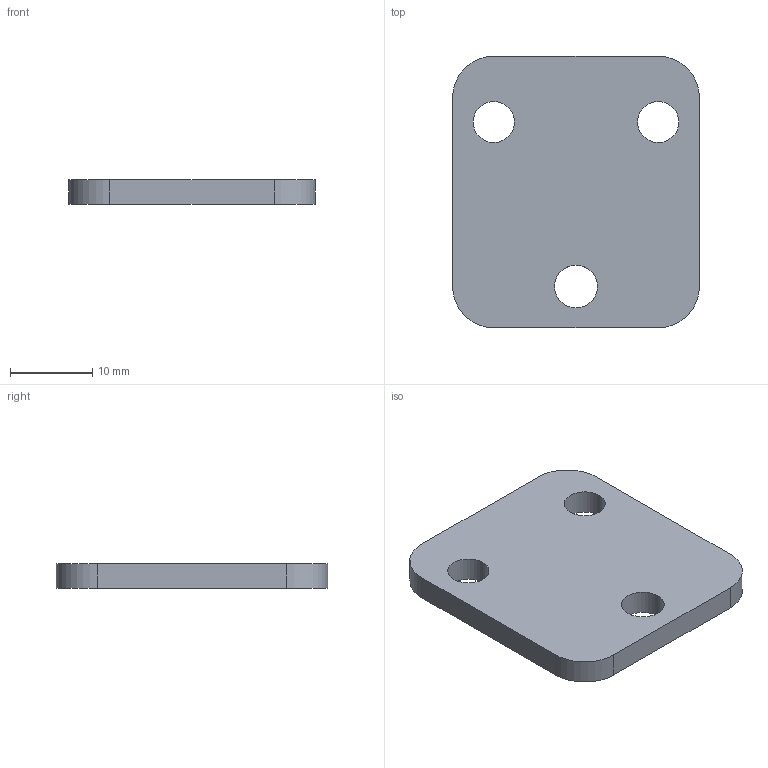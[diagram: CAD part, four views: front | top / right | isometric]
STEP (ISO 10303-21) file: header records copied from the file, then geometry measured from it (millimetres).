
FILE_DESCRIPTION((''),'2;1');
FILE_NAME('0000205819','2024-01-01T18:42:03',('Wyndorps'),(''),'CREO PARAMETRIC BY PTC INC, 2022484','CREO PARAMETRIC BY PTC INC, 2022484','');
FILE_SCHEMA(('CONFIG_CONTROL_DESIGN'));
Length unit declared in the file: millimetre
Products named in the file (1): 0000205819
Bounding box: 30 x 33 x 3 mm (x, y, z)
Volume: 2724.1 mm3; surface area: 2311.6 mm2
Topology: 1 solids, 1 shells, 16 faces, 42 edges, 28 vertices
Faces by surface type: cylinder 10, plane 6
Entity records: 556 total; most frequent: DIRECTION 94, CARTESIAN_POINT 86, ORIENTED_EDGE 84, EDGE_CURVE 42, AXIS2_PLACEMENT_3D 36, VERTEX_POINT 28, VECTOR 22, LINE 22
